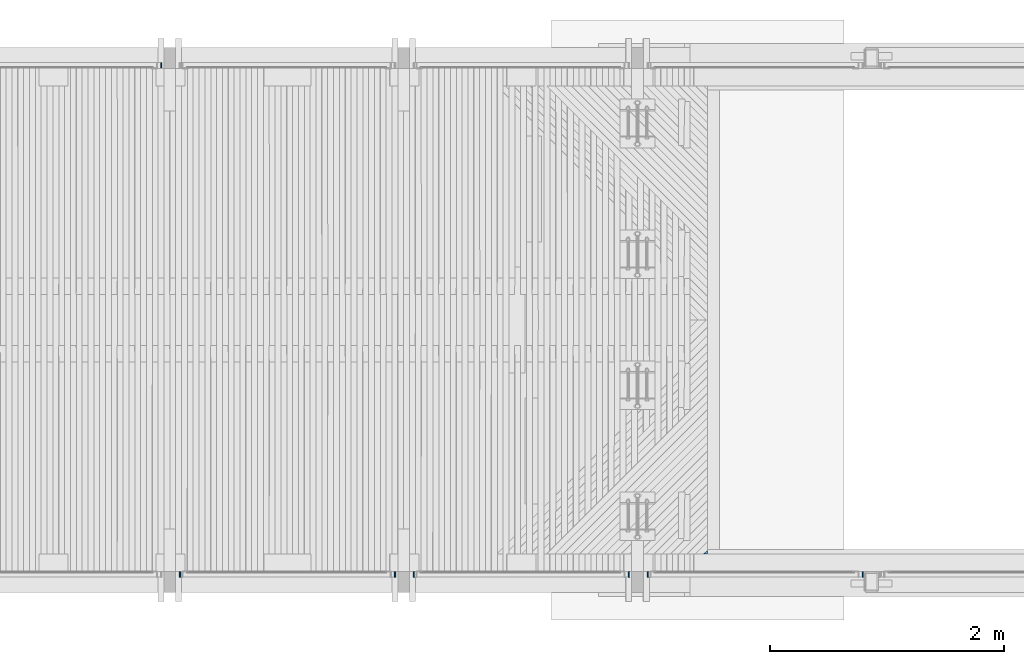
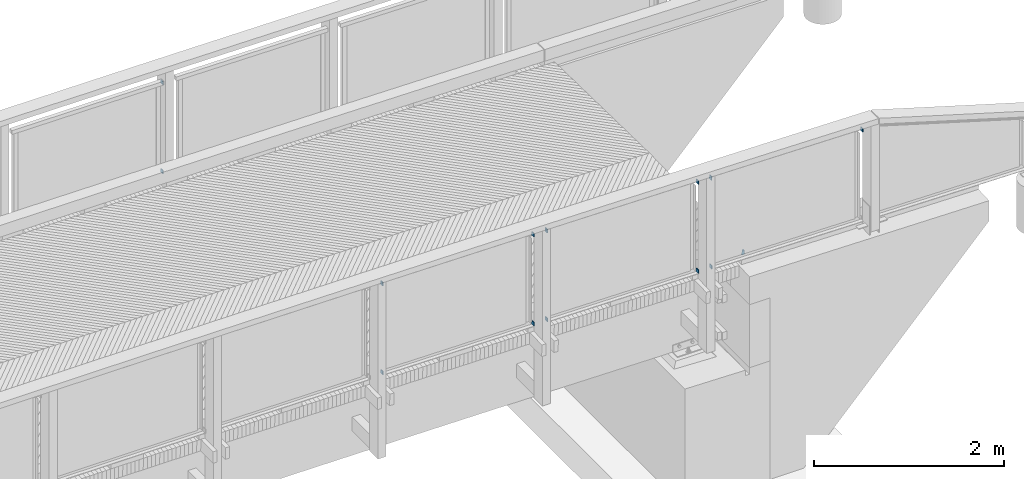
# One storey, part 62 of 65: 14 beams.
"""IFC2X3 building model written with IfcOpenShell, lengths in millimetres."""

import ifcopenshell
import ifcopenshell.guid

model = None  # the IFC model being written
_history = None  # IfcOwnerHistory: only IFC2X3 demands one
_inside = {}  # id of a spatial element -> (the spatial element, [elements in it])
_under = {}  # id of a project, library or spatial element -> (it, [spatial elements below it])
_declared = {}  # id of a project -> (the project, [libraries it declares])
_typed = {}  # id of a type object -> (the type object, [elements of that type])
_made_of = {}  # id of a material, layer set ... -> (it, [elements and type objects made of it])


def new_model(schema):
    """Start an empty IFC model of exactly this schema.

    Asked for "IFC4X3", IfcOpenShell would pick the latest addendum, in which some entities
    have other attributes; the version numbers below select the first issue.
    IFC2X3 requires an IfcOwnerHistory on every rooted entity: one is made here for all.
    """
    global model, _history
    if schema == "IFC4X3":
        model = ifcopenshell.file(schema_version=(4, 3, 0, 0))
    else:
        model = ifcopenshell.file(schema=schema)
    _inside.clear()
    _under.clear()
    _declared.clear()
    _typed.clear()
    _made_of.clear()
    _history = None
    if model.schema == "IFC2X3":
        org = make("IfcOrganization", Name="unknown")
        user = make(
            "IfcPersonAndOrganization",
            ThePerson=make("IfcPerson", FamilyName="unknown"),
            TheOrganization=org,
        )
        app = make(
            "IfcApplication",
            ApplicationDeveloper=org,
            Version="unknown",
            ApplicationFullName="unknown",
            ApplicationIdentifier="unknown",
        )
        _history = make(
            "IfcOwnerHistory",
            OwningUser=user,
            OwningApplication=app,
            ChangeAction="ADDED",
            CreationDate=0,
        )
    return model


def make(cls, **values):
    """One entity of the class cls with the attributes given. An attribute that is None is left unset."""
    return model.create_entity(
        cls, **{name: value for name, value in values.items() if value is not None}
    )


def rooted(cls, **values):
    """An entity with a GlobalId (a new one), such as an element, a storey or a relation."""
    return make(cls, GlobalId=ifcopenshell.guid.new(), OwnerHistory=_history, **values)


def si_unit(unit_type, name, prefix=None):
    """IfcSIUnit, for example si_unit("LENGTHUNIT", "METRE", prefix="MILLI")."""
    return make("IfcSIUnit", UnitType=unit_type, Prefix=prefix, Name=name)


def assignment(units):
    """IfcUnitAssignment: the units of a project."""
    return None if units is None else make("IfcUnitAssignment", Units=units)


def point(xyz):
    """IfcCartesianPoint."""
    return None if xyz is None else make("IfcCartesianPoint", Coordinates=xyz)


def direction(xyz):
    """IfcDirection."""
    return None if xyz is None else make("IfcDirection", DirectionRatios=xyz)


def frame(location, z_axis=None, x_axis=None):
    """IfcAxis2Placement3D, a coordinate frame: its origin and axes. An axis left out is left unset."""
    return make(
        "IfcAxis2Placement3D",
        Location=point(location),
        Axis=direction(z_axis),
        RefDirection=direction(x_axis),
    )


def origin_with_axes():
    """The frame at (0, 0, 0) with the z axis (0, 0, 1) and the x axis (1, 0, 0) written out."""
    return frame((0.0, 0.0, 0.0), z_axis=(0.0, 0.0, 1.0), x_axis=(1.0, 0.0, 0.0))


def place(relative_to, where):
    """IfcLocalPlacement: puts the frame where relative to a parent placement (None: the world)."""
    return make(
        "IfcLocalPlacement", PlacementRelTo=relative_to, RelativePlacement=where
    )


def context(
    kind, dimensions, precision=None, world=None, true_north=None, identifier=None
):
    """IfcGeometricRepresentationContext, for example the 3D "Model" context."""
    return make(
        "IfcGeometricRepresentationContext",
        ContextIdentifier=identifier,
        ContextType=kind,
        CoordinateSpaceDimension=dimensions,
        Precision=precision,
        WorldCoordinateSystem=world,
        TrueNorth=true_north,
    )


def subcontext(parent, identifier, kind, view, scale=None):
    """IfcGeometricRepresentationSubContext, for example "Body" below "Model"."""
    return make(
        "IfcGeometricRepresentationSubContext",
        ContextIdentifier=identifier,
        ContextType=kind,
        ParentContext=parent,
        TargetScale=scale,
        TargetView=view,
    )


def project(units=None, contexts=None):
    """IfcProject with its units and contexts."""
    return rooted(
        "IfcProject",
        Name="project",
        RepresentationContexts=contexts,
        UnitsInContext=assignment(units),
    )


def spatial(cls, under=None, at=None, **own):
    """A site, building, storey or space (cls), placed at a placement, below another one or the project."""
    s = rooted(cls, ObjectPlacement=at, **own)
    if under is not None:
        _under.setdefault(under.id(), (under, []))[1].append(s)
    return s


def faces_of(points, faces, orient=None, outer=None):
    """IfcFace entities. A face is a list of loops; a loop is a list of indices into points, from 0.

    orient and outer hold one flag for each loop. By default every Orientation is true, the
    first loop of a face is its IfcFaceOuterBound and the others are IfcFaceBound.
    """
    made = []
    for i, loops in enumerate(faces):
        bounds = []
        for j, loop in enumerate(loops):
            is_outer = j == 0 if outer is None else outer[i][j]
            bounds.append(
                make(
                    "IfcFaceOuterBound" if is_outer else "IfcFaceBound",
                    Bound=make("IfcPolyLoop", Polygon=[points[k] for k in loop]),
                    Orientation=True if orient is None else orient[i][j],
                )
            )
        made.append(make("IfcFace", Bounds=bounds))
    return made


def faceted_brep(points, faces, orient=None, outer=None, voids=None):
    """IfcFacetedBrep: a solid bounded by flat faces; with voids (closed shells), ...WithVoids."""
    shared = [point(p) for p in points]
    hull = make("IfcClosedShell", CfsFaces=faces_of(shared, faces, orient, outer))
    if voids is None:
        return make("IfcFacetedBrep", Outer=hull)
    return make(
        "IfcFacetedBrepWithVoids",
        Outer=hull,
        Voids=[
            make(cls, CfsFaces=faces_of(shared, fs, o, b)) for cls, fs, o, b in voids
        ],
    )


def shape(context_of_items, identifier, shape_type, items):
    """IfcShapeRepresentation: the items that make up one representation, for example the "Body"."""
    return make(
        "IfcShapeRepresentation",
        ContextOfItems=context_of_items,
        RepresentationIdentifier=identifier,
        RepresentationType=shape_type,
        Items=items,
    )


def material(Name=None, Category=None):
    """IfcMaterial."""
    return make("IfcMaterial", Name=Name, Category=Category)


def made_of(thing, what):
    """Note that an element or type object is made of a material, layer set ...; save() writes the relation."""
    if what is not None:
        _made_of.setdefault(what.id(), (what, []))[1].append(thing)
    return thing


def type_object(cls, material=None, **own):
    """A type object (cls), such as IfcWallType, which elements share."""
    return made_of(rooted(cls, **own), material)


def element(
    cls,
    number,
    at=None,
    inside=None,
    cuts=None,
    type_object=None,
    material=None,
    context=None,
    identifier="Body",
    shape_type=None,
    held_by="IfcProductDefinitionShape",
    body=None,
    shapes=None,
    **own,
):
    """One element of the class cls, such as IfcWall. Its Tag is "e" and its number.

    at: its placement. inside: the storey or other place that contains it. cuts: it is an
    opening in that element (IfcRelVoidsElement). A single representation is given by context,
    identifier, shape_type and body (its items); several are given by shapes. held_by: the class
    of the entity that holds the representations. save() writes the other relations.
    """
    e = rooted(cls, Tag="e%d" % number, ObjectPlacement=at, **own)
    if body is not None:
        shapes = [shape(context, identifier, shape_type, body)]
    if shapes is not None:
        e.Representation = make(held_by, Representations=shapes)
    if inside is not None:
        _inside.setdefault(inside.id(), (inside, []))[1].append(e)
    if cuts is not None:
        rooted(
            "IfcRelVoidsElement", RelatingBuildingElement=cuts, RelatedOpeningElement=e
        )
    if type_object is not None:
        _typed.setdefault(type_object.id(), (type_object, []))[1].append(e)
    return made_of(e, material)


def aggregate(whole, parts):
    """IfcRelAggregates: a whole, such as a stair, and the parts it consists of."""
    return rooted("IfcRelAggregates", RelatingObject=whole, RelatedObjects=parts)


def save(model, path):
    """Write the relations noted so far, then the file.

    IfcRelAggregates (storeys below a building ...), IfcRelContainedInSpatialStructure (elements
    in a storey), IfcRelDefinesByType, IfcRelAssociatesMaterial and IfcRelDeclares: one each for
    every whole, place, type object, material and project.
    """
    for whole, parts in _under.values():
        aggregate(whole, parts)
    for where, things in _inside.values():
        rooted(
            "IfcRelContainedInSpatialStructure",
            RelatedElements=things,
            RelatingStructure=where,
        )
    for kind, things in _typed.values():
        rooted("IfcRelDefinesByType", RelatedObjects=things, RelatingType=kind)
    for what, things in _made_of.values():
        rooted("IfcRelAssociatesMaterial", RelatedObjects=things, RelatingMaterial=what)
    for by, libraries in _declared.values():
        rooted("IfcRelDeclares", RelatingContext=by, RelatedDefinitions=libraries)
    model.write(path)


model = new_model("IFC2X3")

# Units and contexts
model_context = context("Model", 3, precision=1e-05, world=origin_with_axes())
body_context = subcontext(model_context, "Body", "Model", "MODEL_VIEW")
ifc_project = project(units=[si_unit("LENGTHUNIT", "METRE", prefix="MILLI"), si_unit("AREAUNIT", "SQUARE_METRE"), si_unit("VOLUMEUNIT", "CUBIC_METRE"), si_unit("MASSUNIT", "GRAM", prefix="KILO"), si_unit("TIMEUNIT", "SECOND"), si_unit("PLANEANGLEUNIT", "RADIAN"), si_unit("SOLIDANGLEUNIT", "STERADIAN"), si_unit("THERMODYNAMICTEMPERATUREUNIT", "DEGREE_CELSIUS"), si_unit("LUMINOUSINTENSITYUNIT", "LUMEN")], contexts=[model_context])

# Site, building, storey
site_placement = place(None, origin_with_axes())
site = spatial("IfcSite", under=ifc_project, at=site_placement, Name="Undefined", CompositionType="ELEMENT")
building_placement = place(site_placement, origin_with_axes())
building = spatial("IfcBuilding", under=site, at=building_placement, Name="Undefined", CompositionType="ELEMENT")
storey_placement = place(building_placement, origin_with_axes())
storey = spatial("IfcBuildingStorey", under=building, at=storey_placement, Name="Undefined", CompositionType="ELEMENT", Elevation=0.0)

# Beams
ifc_material_1 = material(Name="STEEL/S235JR")
beam_type_1 = type_object("IfcBeamType", Name="PL45*10", PredefinedType="NOTDEFINED")
for number, where, z_axis, x_axis, name in (
    (1, (11926.6522968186, 24519.989999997, 4426.09038344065), (0.0194951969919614, 0.0, 0.999809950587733), (0.0, 1.0, 0.0), "BEAM"),
    (2, (11927.4691843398, 24520.0200000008, 3281.08430635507), (-0.020103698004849, 0.0, -0.999797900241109), (0.0, 1.0, 0.0), "BEAM"),
    (3, (16087.2729834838, 20210.0100000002, 4384.49244319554), (0.0294394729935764, 0.0, 0.999566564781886), (0.0, -1.0, 0.0), "BEAM"),
    (4, (17926.2037972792, 20210.0100000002, 4357.20439384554), (0.0294394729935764, 0.0, 0.999566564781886), (0.0, -1.0, 0.0), "BEAM"),
    (5, (14087.3627533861, 20210.0099999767, 4407.98502007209), (0.0261245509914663, 0.0, 0.999658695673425), (0.0, -1.0, 0.0), "BEAM"),
    (6, (15926.3739481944, 20210.0099999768, 4386.79537761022), (0.0261245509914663, 0.0, 0.999658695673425), (0.0, -1.0, 0.0), "BEAM"),
    (7, (12087.452065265, 20210.0099999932, 4424.85169918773), (0.0228110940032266, 0.0, 0.999739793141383), (0.0, -1.0, 0.0), "BEAM"),
    (8, (13926.5233906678, 20210.0099999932, 4409.75747338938), (0.0228110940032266, 0.0, 0.999739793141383), (0.0, -1.0, 0.0), "BEAM"),
    (9, (16088.7958011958, 20210.0099999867, 3239.47282194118), (-0.0294383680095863, 0.0, -0.999566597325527), (0.0, -1.0, 0.0), "BEAM"),
    (10, (14088.6263698, 20210.0099999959, 3262.97489842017), (-0.0261245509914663, 0.0, -0.999658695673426), (0.0, -1.0, 0.0), "BEAM"),
    (11, (15927.6466317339, 20209.9800000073, 3241.78532221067), (-0.0267329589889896, 0.0, -0.999642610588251), (0.0, -1.0, 0.0), "BEAM"),
    (12, (12088.4774217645, 20210.0099999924, 3279.84218000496), (-0.0228110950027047, 0.0, -0.999739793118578), (0.0, -1.0, 0.0), "BEAM"),
    (13, (13927.5578140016, 20209.9800000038, 3264.74805051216), (-0.023419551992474, 0.0, -0.99972572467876), (0.0, -1.0, 0.0), "BEAM"),
):
    element("IfcBeam", number, at=place(storey_placement, frame(where, z_axis=z_axis, x_axis=x_axis)), inside=storey, type_object=beam_type_1, material=ifc_material_1, Name=name, ObjectType="PL45*10", context=body_context, shape_type="Brep", body=[
        faceted_brep([(0.0, 5.0, -22.5), (0.0, 5.0, 22.5), (45.0, 5.0, 22.5), (45.0, 5.0, -22.5), (0.0, -5.0, 22.5), (45.0, -5.0, 22.5), (0.0, -5.0, -22.5000000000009), (45.0, -5.0, -22.5000000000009)], [[[0, 1, 2, 3]], [[1, 4, 5, 2]], [[4, 6, 7, 5]], [[6, 0, 3, 7]], [[5, 7, 3, 2]], [[6, 4, 1, 0]]]),
    ])
ifc_material_2 = material(Name="TIMBER/Timber_Undefined")
beam_type_2 = type_object("IfcBeamType", Name="50*50", PredefinedType="NOTDEFINED")
beam_placement = place(storey_placement, frame((18602.4451192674, 22364.5001003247, 3142.76655719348), z_axis=(0.706778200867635, -0.706981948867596, -0.0253199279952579), x_axis=(-0.707258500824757, -0.706948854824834, -0.00295460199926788)))
element("IfcBeam", 14, at=beam_placement, inside=storey, type_object=beam_type_2, material=ifc_material_2, Name="BEAM", ObjectType="50*50", context=body_context, shape_type="Brep", body=[
    faceted_brep([(2854.34301907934, 24.9999999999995, -25.0), (2805.73564804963, 25.0, -24.9999999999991), (2830.03050958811, 25.0, -0.688628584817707), (2852.92877373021, -25.0000000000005, -24.9999999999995), (2829.88273146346, -25.0000000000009, -1.95503652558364), (2806.85341784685, -25.0000000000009, -25.0000000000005)], [[[0, 1, 2]], [[3, 0, 2, 4]], [[3, 4, 5]], [[0, 3, 5, 1]], [[4, 2, 1, 5]]]),
])

save(model, "model.ifc")
